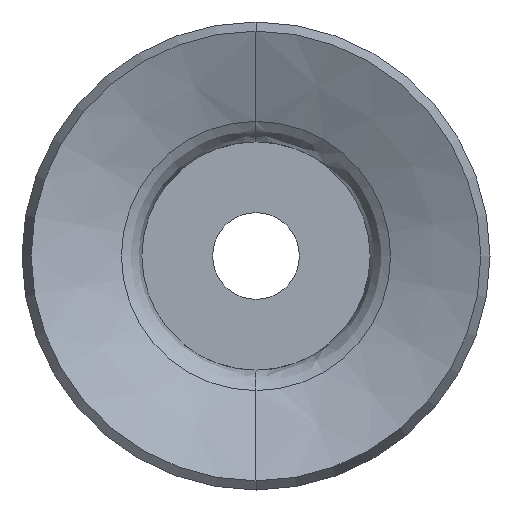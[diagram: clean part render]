
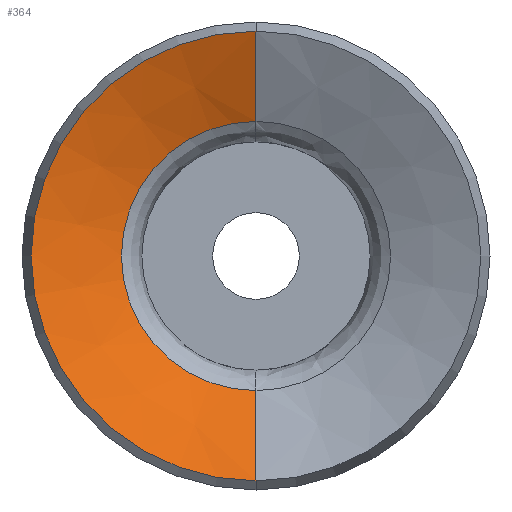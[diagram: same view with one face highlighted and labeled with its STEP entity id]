
A CAD part, front view. The second image highlights one B-rep face of the part: STEP entity #364.
In plain terms, the highlighted conical face has half-angle 66.264 degrees and reference radius 5.895 mm.
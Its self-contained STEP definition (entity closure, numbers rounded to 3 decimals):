
#24 = EDGE_CURVE ( 'NONE', #943, #1649, #1676, .T. ) ;
#28 = VERTEX_POINT ( 'NONE', #1262 ) ;
#119 = CARTESIAN_POINT ( 'NONE',  ( 0., -23., 9.847 ) ) ;
#131 = CONICAL_SURFACE ( 'NONE', #1540, 5.895, 1.157 ) ;
#152 = CARTESIAN_POINT ( 'NONE',  ( 0., -21.262, -5.895 ) ) ;
#153 = VERTEX_POINT ( 'NONE', #119 ) ;
#179 = DIRECTION ( 'NONE',  ( 0., 0., -1. ) ) ;
#188 = CARTESIAN_POINT ( 'NONE',  ( 0., -21.262, 0. ) ) ;
#200 = CIRCLE ( 'NONE', #419, 5.895 ) ;
#279 = ORIENTED_EDGE ( 'NONE', *, *, #1622, .T. ) ;
#364 = ADVANCED_FACE ( 'NONE', ( #566 ), #131, .F. ) ;
#419 = AXIS2_PLACEMENT_3D ( 'NONE', #735, #875, #1418 ) ;
#563 = EDGE_LOOP ( 'NONE', ( #940, #279, #1365, #1509 ) ) ;
#566 = FACE_OUTER_BOUND ( 'NONE', #563, .T. ) ;
#574 = DIRECTION ( 'NONE',  ( 0., 0., 1. ) ) ;
#641 = CARTESIAN_POINT ( 'NONE',  ( 0., -23., -9.847 ) ) ;
#644 = DIRECTION ( 'NONE',  ( 0., -0.403, 0.915 ) ) ;
#663 = VECTOR ( 'NONE', #644, 1000. ) ;
#735 = CARTESIAN_POINT ( 'NONE',  ( 0., -21.262, 0. ) ) ;
#796 = VECTOR ( 'NONE', #1288, 1000. ) ;
#861 = EDGE_CURVE ( 'NONE', #943, #28, #200, .T. ) ;
#875 = DIRECTION ( 'NONE',  ( 0., 1., 0. ) ) ;
#940 = ORIENTED_EDGE ( 'NONE', *, *, #861, .T. ) ;
#943 = VERTEX_POINT ( 'NONE', #152 ) ;
#987 = DIRECTION ( 'NONE',  ( 0., -1., 0. ) ) ;
#1257 = CIRCLE ( 'NONE', #1303, 9.847 ) ;
#1262 = CARTESIAN_POINT ( 'NONE',  ( 0., -21.262, 5.895 ) ) ;
#1288 = DIRECTION ( 'NONE',  ( 0., -0.403, -0.915 ) ) ;
#1303 = AXIS2_PLACEMENT_3D ( 'NONE', #1661, #987, #574 ) ;
#1359 = EDGE_CURVE ( 'NONE', #153, #1649, #1257, .T. ) ;
#1365 = ORIENTED_EDGE ( 'NONE', *, *, #1359, .T. ) ;
#1412 = CARTESIAN_POINT ( 'NONE',  ( 0., -21.262, -5.895 ) ) ;
#1418 = DIRECTION ( 'NONE',  ( 0., 0., -1. ) ) ;
#1509 = ORIENTED_EDGE ( 'NONE', *, *, #24, .F. ) ;
#1532 = DIRECTION ( 'NONE',  ( 0., -1., 0. ) ) ;
#1540 = AXIS2_PLACEMENT_3D ( 'NONE', #188, #1532, #179 ) ;
#1610 = CARTESIAN_POINT ( 'NONE',  ( 0., -21.262, 5.895 ) ) ;
#1622 = EDGE_CURVE ( 'NONE', #28, #153, #1739, .T. ) ;
#1649 = VERTEX_POINT ( 'NONE', #641 ) ;
#1661 = CARTESIAN_POINT ( 'NONE',  ( 0., -23., 0. ) ) ;
#1676 = LINE ( 'NONE', #1412, #796 ) ;
#1739 = LINE ( 'NONE', #1610, #663 ) ;
